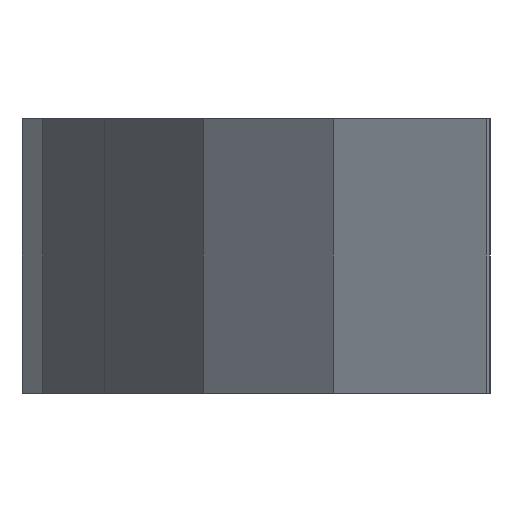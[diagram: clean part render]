
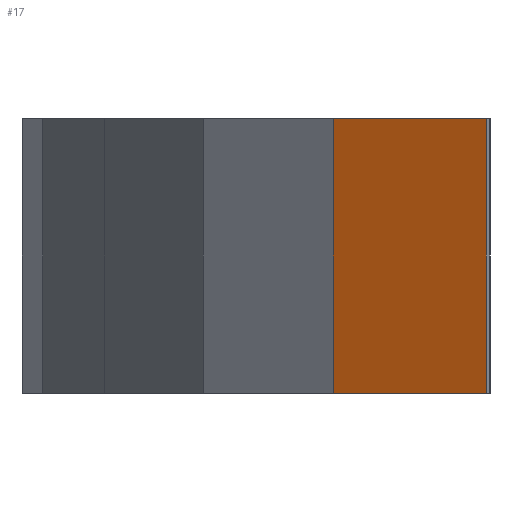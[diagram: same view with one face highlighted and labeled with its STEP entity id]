
A CAD part, left-side view. The second image highlights one B-rep face of the part: STEP entity #17.
In plain terms, the highlighted planar face has unit normal (-0.861, 0.509, 0).
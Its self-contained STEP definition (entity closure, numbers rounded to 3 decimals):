
#17 = ADVANCED_FACE('',(#18),#32,.F.);
#18 = FACE_BOUND('',#19,.F.);
#19 = EDGE_LOOP('',(#20,#55,#80,#108));
#20 = ORIENTED_EDGE('',*,*,#21,.T.);
#21 = EDGE_CURVE('',#22,#24,#26,.T.);
#22 = VERTEX_POINT('',#23);
#23 = CARTESIAN_POINT('',(-176.662,55.407,31.));
#24 = VERTEX_POINT('',#25);
#25 = CARTESIAN_POINT('',(-155.859,90.589,31.));
#26 = SURFACE_CURVE('',#27,(#31,#43),.PCURVE_S1.);
#27 = LINE('',#28,#29);
#28 = CARTESIAN_POINT('',(-176.662,55.407,31.));
#29 = VECTOR('',#30,1.);
#30 = DIRECTION('',(0.509,0.861,0.));
#31 = PCURVE('',#32,#37);
#32 = PLANE('',#33);
#33 = AXIS2_PLACEMENT_3D('',#34,#35,#36);
#34 = CARTESIAN_POINT('',(-176.662,55.407,94.));
#35 = DIRECTION('',(0.861,-0.509,0.));
#36 = DIRECTION('',(0.509,0.861,0.));
#37 = DEFINITIONAL_REPRESENTATION('',(#38),#42);
#38 = LINE('',#39,#40);
#39 = CARTESIAN_POINT('',(0.,-63.));
#40 = VECTOR('',#41,1.);
#41 = DIRECTION('',(1.,0.));
#42 = ( GEOMETRIC_REPRESENTATION_CONTEXT(2) 
PARAMETRIC_REPRESENTATION_CONTEXT() REPRESENTATION_CONTEXT('2D SPACE',''
  ) );
#43 = PCURVE('',#44,#49);
#44 = PLANE('',#45);
#45 = AXIS2_PLACEMENT_3D('',#46,#47,#48);
#46 = CARTESIAN_POINT('',(-176.662,55.407,31.));
#47 = DIRECTION('',(0.,0.,1.));
#48 = DIRECTION('',(1.,0.,-0.));
#49 = DEFINITIONAL_REPRESENTATION('',(#50),#54);
#50 = LINE('',#51,#52);
#51 = CARTESIAN_POINT('',(0.,0.));
#52 = VECTOR('',#53,1.);
#53 = DIRECTION('',(0.509,0.861));
#54 = ( GEOMETRIC_REPRESENTATION_CONTEXT(2) 
PARAMETRIC_REPRESENTATION_CONTEXT() REPRESENTATION_CONTEXT('2D SPACE',''
  ) );
#55 = ORIENTED_EDGE('',*,*,#56,.T.);
#56 = EDGE_CURVE('',#24,#57,#59,.T.);
#57 = VERTEX_POINT('',#58);
#58 = CARTESIAN_POINT('',(-155.859,90.589,94.));
#59 = SURFACE_CURVE('',#60,(#63,#69),.PCURVE_S1.);
#60 = B_SPLINE_CURVE_WITH_KNOTS('',1,(#61,#62),.UNSPECIFIED.,.F.,.F.,(2,
    2),(0.,1.),.PIECEWISE_BEZIER_KNOTS.);
#61 = CARTESIAN_POINT('',(-155.859,90.589,31.));
#62 = CARTESIAN_POINT('',(-155.859,90.589,94.));
#63 = PCURVE('',#32,#64);
#64 = DEFINITIONAL_REPRESENTATION('',(#65),#68);
#65 = B_SPLINE_CURVE_WITH_KNOTS('',1,(#66,#67),.UNSPECIFIED.,.F.,.F.,(2,
    2),(0.,1.),.PIECEWISE_BEZIER_KNOTS.);
#66 = CARTESIAN_POINT('',(40.872,-63.));
#67 = CARTESIAN_POINT('',(40.872,0.));
#68 = ( GEOMETRIC_REPRESENTATION_CONTEXT(2) 
PARAMETRIC_REPRESENTATION_CONTEXT() REPRESENTATION_CONTEXT('2D SPACE',''
  ) );
#69 = PCURVE('',#70,#75);
#70 = PLANE('',#71);
#71 = AXIS2_PLACEMENT_3D('',#72,#73,#74);
#72 = CARTESIAN_POINT('',(-155.859,90.589,94.));
#73 = DIRECTION('',(0.704,-0.71,0.));
#74 = DIRECTION('',(0.71,0.704,0.));
#75 = DEFINITIONAL_REPRESENTATION('',(#76),#79);
#76 = B_SPLINE_CURVE_WITH_KNOTS('',1,(#77,#78),.UNSPECIFIED.,.F.,.F.,(2,
    2),(0.,1.),.PIECEWISE_BEZIER_KNOTS.);
#77 = CARTESIAN_POINT('',(0.,-63.));
#78 = CARTESIAN_POINT('',(0.,0.));
#79 = ( GEOMETRIC_REPRESENTATION_CONTEXT(2) 
PARAMETRIC_REPRESENTATION_CONTEXT() REPRESENTATION_CONTEXT('2D SPACE',''
  ) );
#80 = ORIENTED_EDGE('',*,*,#81,.F.);
#81 = EDGE_CURVE('',#82,#57,#84,.T.);
#82 = VERTEX_POINT('',#83);
#83 = CARTESIAN_POINT('',(-176.662,55.407,94.));
#84 = SURFACE_CURVE('',#85,(#89,#96),.PCURVE_S1.);
#85 = LINE('',#86,#87);
#86 = CARTESIAN_POINT('',(-176.662,55.407,94.));
#87 = VECTOR('',#88,1.);
#88 = DIRECTION('',(0.509,0.861,0.));
#89 = PCURVE('',#32,#90);
#90 = DEFINITIONAL_REPRESENTATION('',(#91),#95);
#91 = LINE('',#92,#93);
#92 = CARTESIAN_POINT('',(0.,0.));
#93 = VECTOR('',#94,1.);
#94 = DIRECTION('',(1.,0.));
#95 = ( GEOMETRIC_REPRESENTATION_CONTEXT(2) 
PARAMETRIC_REPRESENTATION_CONTEXT() REPRESENTATION_CONTEXT('2D SPACE',''
  ) );
#96 = PCURVE('',#97,#102);
#97 = PLANE('',#98);
#98 = AXIS2_PLACEMENT_3D('',#99,#100,#101);
#99 = CARTESIAN_POINT('',(-176.662,55.407,94.));
#100 = DIRECTION('',(0.,0.,1.));
#101 = DIRECTION('',(1.,0.,-0.));
#102 = DEFINITIONAL_REPRESENTATION('',(#103),#107);
#103 = LINE('',#104,#105);
#104 = CARTESIAN_POINT('',(0.,0.));
#105 = VECTOR('',#106,1.);
#106 = DIRECTION('',(0.509,0.861));
#107 = ( GEOMETRIC_REPRESENTATION_CONTEXT(2) 
PARAMETRIC_REPRESENTATION_CONTEXT() REPRESENTATION_CONTEXT('2D SPACE',''
  ) );
#108 = ORIENTED_EDGE('',*,*,#109,.F.);
#109 = EDGE_CURVE('',#22,#82,#110,.T.);
#110 = SURFACE_CURVE('',#111,(#114,#120),.PCURVE_S1.);
#111 = B_SPLINE_CURVE_WITH_KNOTS('',1,(#112,#113),.UNSPECIFIED.,.F.,.F.,
  (2,2),(0.,1.),.PIECEWISE_BEZIER_KNOTS.);
#112 = CARTESIAN_POINT('',(-176.662,55.407,31.));
#113 = CARTESIAN_POINT('',(-176.662,55.407,94.));
#114 = PCURVE('',#32,#115);
#115 = DEFINITIONAL_REPRESENTATION('',(#116),#119);
#116 = B_SPLINE_CURVE_WITH_KNOTS('',1,(#117,#118),.UNSPECIFIED.,.F.,.F.,
  (2,2),(0.,1.),.PIECEWISE_BEZIER_KNOTS.);
#117 = CARTESIAN_POINT('',(0.,-63.));
#118 = CARTESIAN_POINT('',(0.,0.));
#119 = ( GEOMETRIC_REPRESENTATION_CONTEXT(2) 
PARAMETRIC_REPRESENTATION_CONTEXT() REPRESENTATION_CONTEXT('2D SPACE',''
  ) );
#120 = PCURVE('',#121,#126);
#121 = PLANE('',#122);
#122 = AXIS2_PLACEMENT_3D('',#123,#124,#125);
#123 = CARTESIAN_POINT('',(-174.313,54.552,94.));
#124 = DIRECTION('',(0.342,0.94,-0.));
#125 = DIRECTION('',(-0.94,0.342,0.));
#126 = DEFINITIONAL_REPRESENTATION('',(#127),#130);
#127 = B_SPLINE_CURVE_WITH_KNOTS('',1,(#128,#129),.UNSPECIFIED.,.F.,.F.,
  (2,2),(0.,1.),.PIECEWISE_BEZIER_KNOTS.);
#128 = CARTESIAN_POINT('',(2.5,-63.));
#129 = CARTESIAN_POINT('',(2.5,0.));
#130 = ( GEOMETRIC_REPRESENTATION_CONTEXT(2) 
PARAMETRIC_REPRESENTATION_CONTEXT() REPRESENTATION_CONTEXT('2D SPACE',''
  ) );
